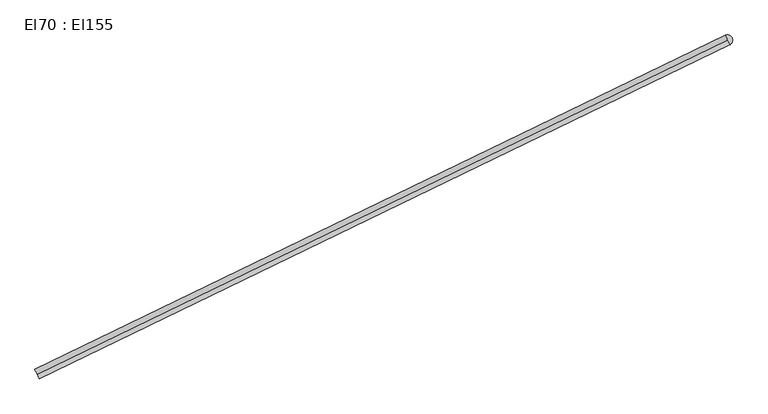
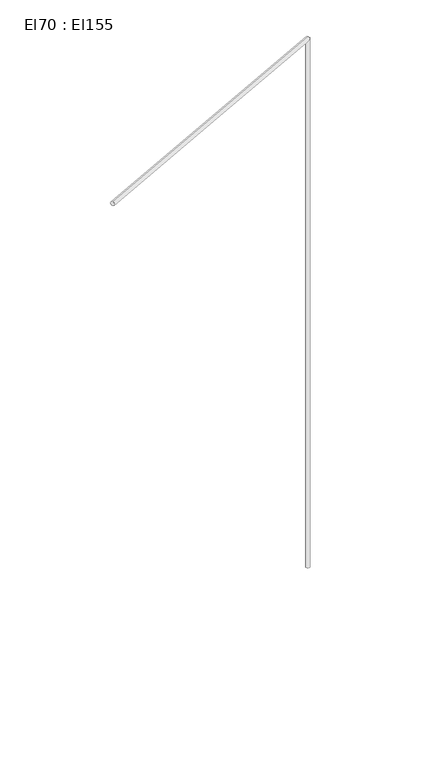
"""IFC4 building model written with IfcOpenShell, lengths in millimetres: cable carrier segment geometry, El70 : El155."""

from ifc_helpers import new_model, si_unit, point, frame, frame_2d, origin, place, context, project, spatial, circle_curve, trimmed, segment, composite_curve, outline, extrude, source, transform, mapped, element, save


def el70_el155_bf3edad0(model_context):
    return source(origin(), model_context, "Body", "SweptSolid", [
        extrude(outline(composite_curve([segment(trimmed(circle_curve(frame_2d((22444.4446511, 2945.4771745)), 9.5), [point((22434.9446511, 2945.4771745))], [point((22453.9446511, 2945.4771745))], False, "CARTESIAN"), True, "CONTINUOUS"), segment(trimmed(circle_curve(frame_2d((22444.4446511, 2945.4771745)), 9.5), [point((22453.9446511, 2945.4771745))], [point((22434.9446511, 2945.4771745))], False, "CARTESIAN"), True, "CONTINUOUS")], self_intersect=False)), frame((0.0, 0.0, 1830.0), z_axis=(0.0, 0.0, 1.0), x_axis=(1.0, 0.0, 0.0)), (0.0, 0.0, 1.0), 2620.0),
        extrude(outline(composite_curve([segment(trimmed(circle_curve(frame_2d((0.0, -9.5)), 9.5), [point((0.0, -19.0))], [point((0.0, 0.0))], False, "CARTESIAN"), True, "CONTINUOUS"), segment(trimmed(circle_curve(frame_2d((0.0, -9.5)), 9.5), [point((0.0, 0.0))], [point((0.0, -19.0))], False, "CARTESIAN"), True, "CONTINUOUS")], self_intersect=False)), frame((21172.5446511, 2329.5981745, 4459.5), z_axis=(0.9000362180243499, 0.4358151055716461, 0.0), x_axis=(-0.4358151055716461, 0.9000362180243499, 0.0)), (0.0, 0.0, 1.0), 1413.17),
    ])


if __name__ == "__main__":
    model = new_model("IFC4")
    model_context = context("Model", 3, world=origin())
    ifc_project = project(units=[si_unit("LENGTHUNIT", "METRE", prefix="MILLI")], contexts=[model_context])
    site = spatial("IfcSite", under=ifc_project)
    building = spatial("IfcBuilding", under=site)
    placement = place(None, origin())
    el70_el155_shape = el70_el155_bf3edad0(model_context)
    element("IfcCableCarrierSegment", 1, ObjectType="El70 : El155", at=placement, inside=building, context=model_context, shape_type="MappedRepresentation", body=[
        mapped(el70_el155_shape, transform((0.0, 0.0, 0.0), x_axis=(1.0, 0.0, 0.0), y_axis=(0.0, 1.0, 0.0), z_axis=(0.0, 0.0, 1.0))),
    ])
    save(model, "model.ifc")
